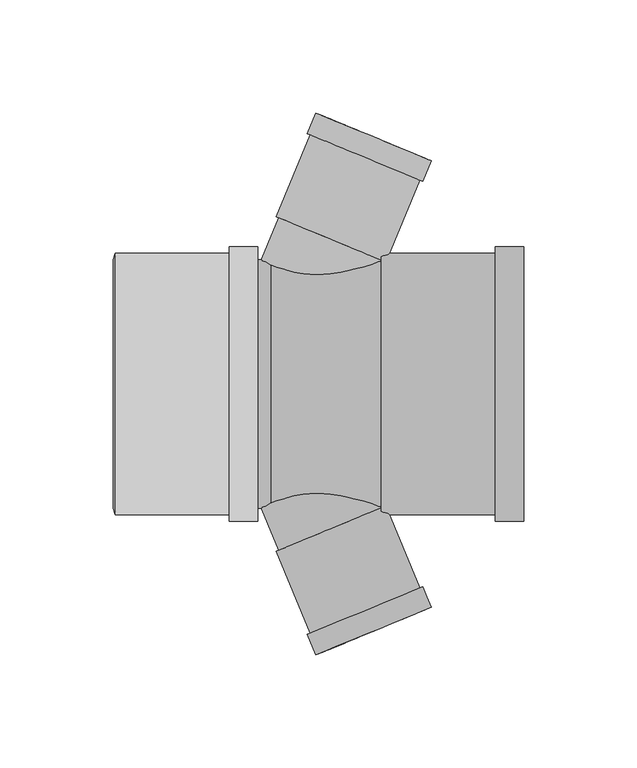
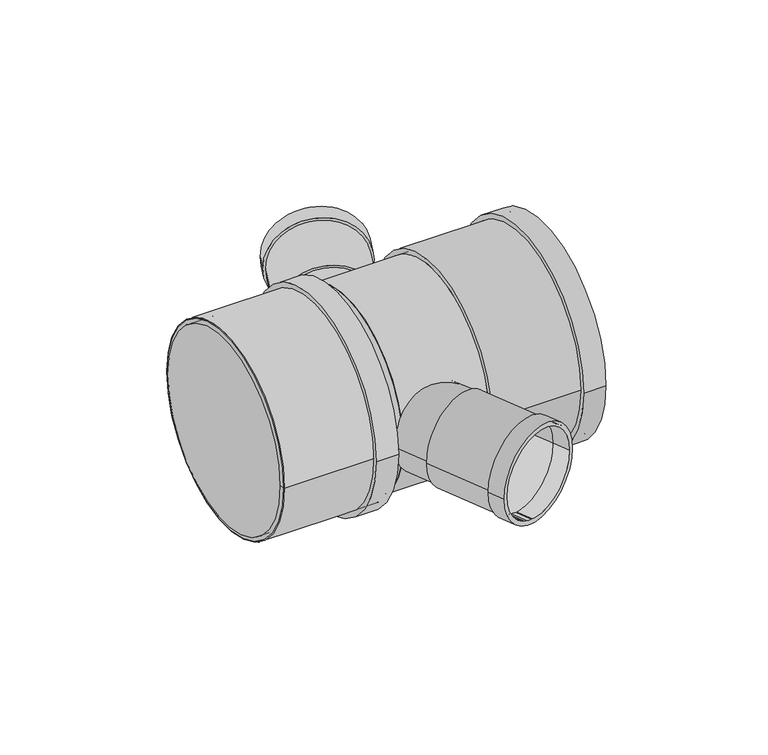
"""IFC4 building model written with IfcOpenShell, lengths in millimetres: pipe fitting geometry, Superdrain HTDA-Double Branch : Superdrain HTDA-Double Branch."""

import ifcopenshell
import ifcopenshell.guid

model = None  # the IFC model being written
_history = None  # IfcOwnerHistory: only IFC2X3 demands one
_inside = {}  # id of a spatial element -> (the spatial element, [elements in it])
_under = {}  # id of a project, library or spatial element -> (it, [spatial elements below it])
_declared = {}  # id of a project -> (the project, [libraries it declares])
_typed = {}  # id of a type object -> (the type object, [elements of that type])
_made_of = {}  # id of a material, layer set ... -> (it, [elements and type objects made of it])


def new_model(schema):
    """Start an empty IFC model of exactly this schema.

    Asked for "IFC4X3", IfcOpenShell would pick the latest addendum, in which some entities
    have other attributes; the version numbers below select the first issue.
    IFC2X3 requires an IfcOwnerHistory on every rooted entity: one is made here for all.
    """
    global model, _history
    if schema == "IFC4X3":
        model = ifcopenshell.file(schema_version=(4, 3, 0, 0))
    else:
        model = ifcopenshell.file(schema=schema)
    _inside.clear()
    _under.clear()
    _declared.clear()
    _typed.clear()
    _made_of.clear()
    _history = None
    if model.schema == "IFC2X3":
        org = make("IfcOrganization", Name="unknown")
        user = make(
            "IfcPersonAndOrganization",
            ThePerson=make("IfcPerson", FamilyName="unknown"),
            TheOrganization=org,
        )
        app = make(
            "IfcApplication",
            ApplicationDeveloper=org,
            Version="unknown",
            ApplicationFullName="unknown",
            ApplicationIdentifier="unknown",
        )
        _history = make(
            "IfcOwnerHistory",
            OwningUser=user,
            OwningApplication=app,
            ChangeAction="ADDED",
            CreationDate=0,
        )
    return model


def make(cls, **values):
    """One entity of the class cls with the attributes given. An attribute that is None is left unset."""
    return model.create_entity(
        cls, **{name: value for name, value in values.items() if value is not None}
    )


def rooted(cls, **values):
    """An entity with a GlobalId (a new one), such as an element, a storey or a relation."""
    return make(cls, GlobalId=ifcopenshell.guid.new(), OwnerHistory=_history, **values)


def si_unit(unit_type, name, prefix=None):
    """IfcSIUnit, for example si_unit("LENGTHUNIT", "METRE", prefix="MILLI")."""
    return make("IfcSIUnit", UnitType=unit_type, Prefix=prefix, Name=name)


def assignment(units):
    """IfcUnitAssignment: the units of a project."""
    return None if units is None else make("IfcUnitAssignment", Units=units)


def point(xyz):
    """IfcCartesianPoint."""
    return None if xyz is None else make("IfcCartesianPoint", Coordinates=xyz)


def direction(xyz):
    """IfcDirection."""
    return None if xyz is None else make("IfcDirection", DirectionRatios=xyz)


def frame(location, z_axis=None, x_axis=None):
    """IfcAxis2Placement3D, a coordinate frame: its origin and axes. An axis left out is left unset."""
    return make(
        "IfcAxis2Placement3D",
        Location=point(location),
        Axis=direction(z_axis),
        RefDirection=direction(x_axis),
    )


def frame_2d(location, x_axis=None):
    """IfcAxis2Placement2D, a coordinate frame in the plane: its origin and x axis."""
    return make(
        "IfcAxis2Placement2D", Location=point(location), RefDirection=direction(x_axis)
    )


def origin():
    """The frame at (0, 0, 0) with its axes left unset."""
    return frame((0.0, 0.0, 0.0))


def origin_2d():
    """The frame at (0, 0) in the plane with its x axis left unset."""
    return frame_2d((0.0, 0.0))


def place(relative_to, where):
    """IfcLocalPlacement: puts the frame where relative to a parent placement (None: the world)."""
    return make(
        "IfcLocalPlacement", PlacementRelTo=relative_to, RelativePlacement=where
    )


def context(
    kind, dimensions, precision=None, world=None, true_north=None, identifier=None
):
    """IfcGeometricRepresentationContext, for example the 3D "Model" context."""
    return make(
        "IfcGeometricRepresentationContext",
        ContextIdentifier=identifier,
        ContextType=kind,
        CoordinateSpaceDimension=dimensions,
        Precision=precision,
        WorldCoordinateSystem=world,
        TrueNorth=true_north,
    )


def project(units=None, contexts=None):
    """IfcProject with its units and contexts."""
    return rooted(
        "IfcProject",
        Name="project",
        RepresentationContexts=contexts,
        UnitsInContext=assignment(units),
    )


def spatial(cls, under=None, at=None, **own):
    """A site, building, storey or space (cls), placed at a placement, below another one or the project."""
    s = rooted(cls, ObjectPlacement=at, **own)
    if under is not None:
        _under.setdefault(under.id(), (under, []))[1].append(s)
    return s


def polyline(points):
    """IfcPolyline through the points."""
    return make("IfcPolyline", Points=[point(p) for p in points])


def circle_curve(where, radius):
    """IfcCircle in the frame where."""
    return make("IfcCircle", Position=where, Radius=radius)


def trimmed(basis, trim1, trim2, sense, master):
    """IfcTrimmedCurve: the piece of a basis curve between two trims."""
    return make(
        "IfcTrimmedCurve",
        BasisCurve=basis,
        Trim1=trim1,
        Trim2=trim2,
        SenseAgreement=sense,
        MasterRepresentation=master,
    )


def segment(curve, same_sense, transition):
    """IfcCompositeCurveSegment."""
    return make(
        "IfcCompositeCurveSegment",
        Transition=transition,
        SameSense=same_sense,
        ParentCurve=curve,
    )


def composite_curve(segments, self_intersect=None):
    """IfcCompositeCurve: segments joined end to end."""
    return make("IfcCompositeCurve", Segments=segments, SelfIntersect=self_intersect)


def outline(outer, holes=None, kind="AREA"):
    """IfcArbitraryClosedProfileDef: a profile drawn as a closed curve; with holes, ...WithVoids."""
    if holes is None:
        return make("IfcArbitraryClosedProfileDef", ProfileType=kind, OuterCurve=outer)
    return make(
        "IfcArbitraryProfileDefWithVoids",
        ProfileType=kind,
        OuterCurve=outer,
        InnerCurves=holes,
    )


def extrude(swept, where, along, depth):
    """IfcExtrudedAreaSolid: the profile swept, set in the frame where, extruded along a direction by depth."""
    return make(
        "IfcExtrudedAreaSolid",
        SweptArea=swept,
        Position=where,
        ExtrudedDirection=direction(along),
        Depth=depth,
    )


def shape(context_of_items, identifier, shape_type, items):
    """IfcShapeRepresentation: the items that make up one representation, for example the "Body"."""
    return make(
        "IfcShapeRepresentation",
        ContextOfItems=context_of_items,
        RepresentationIdentifier=identifier,
        RepresentationType=shape_type,
        Items=items,
    )


def source(mapping_origin, context_of_items, identifier, shape_type, items):
    """IfcRepresentationMap: a shape defined once, which mapped items show again and again."""
    return make(
        "IfcRepresentationMap",
        MappingOrigin=mapping_origin,
        MappedRepresentation=shape(context_of_items, identifier, shape_type, items),
    )


def transform(
    local_origin,
    x_axis=None,
    y_axis=None,
    z_axis=None,
    scale=None,
    scale2=None,
    scale3=None,
    uniform=True,
):
    """IfcCartesianTransformationOperator3D, or its non-uniform kind. x_axis, y_axis, z_axis: its Axis1, 2, 3."""
    if uniform:
        return make(
            "IfcCartesianTransformationOperator3D",
            Axis1=direction(x_axis),
            Axis2=direction(y_axis),
            LocalOrigin=point(local_origin),
            Scale=scale,
            Axis3=direction(z_axis),
        )
    return make(
        "IfcCartesianTransformationOperator3DnonUniform",
        Axis1=direction(x_axis),
        Axis2=direction(y_axis),
        LocalOrigin=point(local_origin),
        Scale=scale,
        Axis3=direction(z_axis),
        Scale2=scale2,
        Scale3=scale3,
    )


def mapped(mapping_source, mapping_target):
    """IfcMappedItem: shows the shape of a source again, moved by a transform."""
    return make(
        "IfcMappedItem", MappingSource=mapping_source, MappingTarget=mapping_target
    )


def made_of(thing, what):
    """Note that an element or type object is made of a material, layer set ...; save() writes the relation."""
    if what is not None:
        _made_of.setdefault(what.id(), (what, []))[1].append(thing)
    return thing


def element(
    cls,
    number,
    at=None,
    inside=None,
    cuts=None,
    type_object=None,
    material=None,
    context=None,
    identifier="Body",
    shape_type=None,
    held_by="IfcProductDefinitionShape",
    body=None,
    shapes=None,
    **own,
):
    """One element of the class cls, such as IfcWall. Its Tag is "e" and its number.

    at: its placement. inside: the storey or other place that contains it. cuts: it is an
    opening in that element (IfcRelVoidsElement). A single representation is given by context,
    identifier, shape_type and body (its items); several are given by shapes. held_by: the class
    of the entity that holds the representations. save() writes the other relations.
    """
    e = rooted(cls, Tag="e%d" % number, ObjectPlacement=at, **own)
    if body is not None:
        shapes = [shape(context, identifier, shape_type, body)]
    if shapes is not None:
        e.Representation = make(held_by, Representations=shapes)
    if inside is not None:
        _inside.setdefault(inside.id(), (inside, []))[1].append(e)
    if cuts is not None:
        rooted(
            "IfcRelVoidsElement", RelatingBuildingElement=cuts, RelatedOpeningElement=e
        )
    if type_object is not None:
        _typed.setdefault(type_object.id(), (type_object, []))[1].append(e)
    return made_of(e, material)


def aggregate(whole, parts):
    """IfcRelAggregates: a whole, such as a stair, and the parts it consists of."""
    return rooted("IfcRelAggregates", RelatingObject=whole, RelatedObjects=parts)


def save(model, path):
    """Write the relations noted so far, then the file.

    IfcRelAggregates (storeys below a building ...), IfcRelContainedInSpatialStructure (elements
    in a storey), IfcRelDefinesByType, IfcRelAssociatesMaterial and IfcRelDeclares: one each for
    every whole, place, type object, material and project.
    """
    for whole, parts in _under.values():
        aggregate(whole, parts)
    for where, things in _inside.values():
        rooted(
            "IfcRelContainedInSpatialStructure",
            RelatedElements=things,
            RelatingStructure=where,
        )
    for kind, things in _typed.values():
        rooted("IfcRelDefinesByType", RelatedObjects=things, RelatingType=kind)
    for what, things in _made_of.values():
        rooted("IfcRelAssociatesMaterial", RelatedObjects=things, RelatingMaterial=what)
    for by, libraries in _declared.values():
        rooted("IfcRelDeclares", RelatingContext=by, RelatedDefinitions=libraries)
    model.write(path)


def plane_surface(at):
    """IfcPlane: the flat surface through the origin of the frame at, square to its z axis."""
    return make("IfcPlane", Position=at)


def revolved_surface(curve, axis_point, axis_direction):
    """IfcSurfaceOfRevolution: the curve turned about the line through axis_point along axis_direction."""
    return make(
        "IfcSurfaceOfRevolution",
        SweptCurve=make("IfcArbitraryOpenProfileDef", ProfileType="CURVE", Curve=curve),
        AxisPosition=make("IfcAxis1Placement", Location=point(axis_point), Axis=direction(axis_direction)),
    )


def advanced_brep(points, edges, surfaces, faces):
    """IfcAdvancedBrep: a solid bounded by faces that lie on surfaces and meet in shared edges.

    An edge is (start, end): straight between two places in points (the first is 0);
    or (start, end, curve); or (start, end, curve, False) where it runs against its curve.
    A face is (place in surfaces, loops), or (place, loops, False) where it looks against
    its surface's normal. A loop lists edges by number (the first is 1), with a minus sign
    where the edge is run from its end to its start. The first loop is the outer one.
    """
    corners = [point(p) for p in points]
    vertices = [make("IfcVertexPoint", VertexGeometry=c) for c in corners]
    made = []
    for start, end, *more in edges:
        made.append(
            make(
                "IfcEdgeCurve",
                EdgeStart=vertices[start],
                EdgeEnd=vertices[end],
                EdgeGeometry=more[0] if more else make("IfcPolyline", Points=[corners[start], corners[end]]),
                SameSense=more[1] if len(more) > 1 else True,
            )
        )
    hull = []
    for where, loops, *sense in faces:
        bounds = []
        for j, loop in enumerate(loops):
            ring = [make("IfcOrientedEdge", EdgeElement=made[abs(k) - 1], Orientation=k > 0) for k in loop]
            bounds.append(
                make(
                    "IfcFaceOuterBound" if j == 0 else "IfcFaceBound",
                    Bound=make("IfcEdgeLoop", EdgeList=ring),
                    Orientation=True,
                )
            )
        hull.append(make("IfcAdvancedFace", Bounds=bounds, FaceSurface=surfaces[where], SameSense=sense[0] if sense else True))
    return make("IfcAdvancedBrep", Outer=make("IfcClosedShell", CfsFaces=hull))


def pipe_fitting_f14a9791(model_context):
    return source(origin(), model_context, "Body", "SolidModel", [
        extrude(outline(composite_curve([segment(trimmed(circle_curve(origin_2d(), 57.75), [point((57.75, 0.0))], [point((-57.75, 0.0))], False, "CARTESIAN"), True, "CONTINUOUS"), segment(trimmed(circle_curve(origin_2d(), 57.75), [point((-57.75, 0.0))], [point((57.75, 0.0))], False, "CARTESIAN"), True, "CONTINUOUS")], self_intersect=False), holes=[composite_curve([segment(trimmed(circle_curve(origin_2d(), 55.0), [point((55.0, 0.0))], [point((-55.0, 0.0))], True, "CARTESIAN"), True, "CONTINUOUS"), segment(trimmed(circle_curve(origin_2d(), 55.0), [point((-55.0, 0.0))], [point((55.0, 0.0))], True, "CARTESIAN"), True, "CONTINUOUS")], self_intersect=False)]), frame((-68.9, 0.0, 0.0), z_axis=(1.0, 0.0, 0.0), x_axis=(0.0, 1.0, 0.0)), (0.0, 0.0, 1.0), 63.0),
        extrude(outline(composite_curve([segment(trimmed(circle_curve(origin_2d(), 60.6375), [point((60.6375, 0.0))], [point((-60.6375, 0.0))], False, "CARTESIAN"), True, "CONTINUOUS"), segment(trimmed(circle_curve(origin_2d(), 60.6375), [point((-60.6375, 0.0))], [point((60.6375, 0.0))], False, "CARTESIAN"), True, "CONTINUOUS")], self_intersect=False), holes=[composite_curve([segment(trimmed(circle_curve(origin_2d(), 55.0), [point((55.0, 0.0))], [point((-55.0, 0.0))], True, "CARTESIAN"), True, "CONTINUOUS"), segment(trimmed(circle_curve(origin_2d(), 55.0), [point((-55.0, 0.0))], [point((55.0, 0.0))], True, "CARTESIAN"), True, "CONTINUOUS")], self_intersect=False)]), frame((-18.5, 0.0, 0.0), z_axis=(1.0, 0.0, 0.0), x_axis=(0.0, 1.0, 0.0)), (0.0, 0.0, 1.0), 12.6),
        advanced_brep(
        [(-69.9, 55.0, 0.0), (-69.9, -55.0, 0.0), (-68.9, 57.75, 0.0), (-68.9, -57.75, 0.0)],
        [
            (0, 1, circle_curve(frame((-69.9, 0.0, 0.0), z_axis=(-1.0, 0.0, 0.0), x_axis=(0.0, 1.0000000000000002, 0.0)), 55.0)),
            (1, 0, circle_curve(frame((-69.9, 0.0, 0.0), z_axis=(-1.0, 0.0, 0.0), x_axis=(0.0, -1.0000000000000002, 0.0)), 55.0)),
            (2, 3, circle_curve(frame((-68.9, 0.0, 0.0), z_axis=(1.0, 0.0, 0.0), x_axis=(0.0, -1.0000000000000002, 0.0)), 57.75)),
            (3, 2, circle_curve(frame((-68.9, 0.0, 0.0), z_axis=(1.0, 0.0, 0.0), x_axis=(0.0, 1.0000000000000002, 0.0)), 57.75)),
            (3, 1),
            (0, 2),
        ],
        [
            plane_surface(frame((-69.9, 0.0, 0.0), z_axis=(-1.0, 0.0, 0.0), x_axis=(0.0, 0.0, -1.0))),
            plane_surface(frame((-68.9, 0.0, 0.0), z_axis=(1.0, 0.0, 0.0), x_axis=(0.0, 0.0, -1.0))),
            revolved_surface(polyline([(-69.9, 55.0, 0.0), (-68.9, 57.75, 0.0)]), (-89.9, 0.0, 0.0), (1.0000000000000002, 0.0, 0.0)),
            revolved_surface(polyline([(-69.9, -55.0, 0.0), (-68.9, -57.75, 0.0)]), (-89.9, 0.0, 0.0), (1.0000000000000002, 0.0, 0.0)),
        ],
        [
            (0, [[1, 2]]),
            (1, [[3, 4]]),
            (2, [[-4, 5, -1, 6]]),
            (3, [[-3, -6, -2, -5]]),
        ],
    ),
        extrude(outline(composite_curve([segment(trimmed(circle_curve(origin_2d(), 27.5625), [point((0.0, -27.5625))], [point((0.0, 27.5625))], False, "CARTESIAN"), True, "CONTINUOUS"), segment(trimmed(circle_curve(origin_2d(), 27.5625), [point((0.0, 27.5625))], [point((0.0, -27.5625))], False, "CARTESIAN"), True, "CONTINUOUS")], self_intersect=False), holes=[composite_curve([segment(trimmed(circle_curve(origin_2d(), 25.0), [point((0.0, -25.0))], [point((0.0, 25.0))], True, "CARTESIAN"), True, "CONTINUOUS"), segment(trimmed(circle_curve(origin_2d(), 25.0), [point((0.0, 25.0))], [point((0.0, -25.0))], True, "CARTESIAN"), True, "CONTINUOUS")], self_intersect=False)]), frame((45.2331817, -109.2025607, 0.0), z_axis=(-0.3826834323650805, 0.9238795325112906, 0.0), x_axis=(0.0, 0.0, 1.0)), (0.0, 0.0, 1.0), 9.8),
        extrude(outline(composite_curve([segment(trimmed(circle_curve(origin_2d(), 26.25), [point((0.0, -26.25))], [point((0.0, 26.25))], False, "CARTESIAN"), True, "CONTINUOUS"), segment(trimmed(circle_curve(origin_2d(), 26.25), [point((0.0, 26.25))], [point((0.0, -26.25))], False, "CARTESIAN"), True, "CONTINUOUS")], self_intersect=False), holes=[composite_curve([segment(trimmed(circle_curve(origin_2d(), 25.0), [point((0.0, -25.0))], [point((0.0, 25.0))], True, "CARTESIAN"), True, "CONTINUOUS"), segment(trimmed(circle_curve(origin_2d(), 25.0), [point((0.0, 25.0))], [point((0.0, -25.0))], True, "CARTESIAN"), True, "CONTINUOUS")], self_intersect=False)]), frame((45.2331817, -109.2025607, 0.0), z_axis=(-0.38268343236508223, 0.92387953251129, 0.0), x_axis=(0.0, 0.0, 1.0)), (0.0, 0.0, 1.0), 49.0),
        extrude(outline(composite_curve([segment(trimmed(circle_curve(origin_2d(), 25.0), [point((0.0, -25.0))], [point((0.0, 25.0))], False, "CARTESIAN"), True, "CONTINUOUS"), segment(trimmed(circle_curve(origin_2d(), 25.0), [point((0.0, 25.0))], [point((0.0, -25.0))], False, "CARTESIAN"), True, "CONTINUOUS")], self_intersect=False)), frame((26.4816935, -63.9324636, 0.0), z_axis=(-0.3826834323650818, 0.9238795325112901, 0.0), x_axis=(0.0, 0.0, 1.0)), (0.0, 0.0, 1.0), 69.2),
        extrude(outline(composite_curve([segment(trimmed(circle_curve(origin_2d(), 27.5625), [point((0.0, 27.5625))], [point((0.0, -27.5625))], False, "CARTESIAN"), True, "CONTINUOUS"), segment(trimmed(circle_curve(origin_2d(), 27.5625), [point((0.0, -27.5625))], [point((0.0, 27.5625))], False, "CARTESIAN"), True, "CONTINUOUS")], self_intersect=False), holes=[composite_curve([segment(trimmed(circle_curve(origin_2d(), 25.0), [point((0.0, 25.0))], [point((0.0, -25.0))], True, "CARTESIAN"), True, "CONTINUOUS"), segment(trimmed(circle_curve(origin_2d(), 25.0), [point((0.0, -25.0))], [point((0.0, 25.0))], True, "CARTESIAN"), True, "CONTINUOUS")], self_intersect=False)]), frame((41.4828841, 100.1485413, 0.0), z_axis=(0.38268343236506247, 0.9238795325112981, 0.0), x_axis=(0.0, 0.0, 1.0)), (0.0, 0.0, 1.0), 9.8),
        extrude(outline(composite_curve([segment(trimmed(circle_curve(origin_2d(), 26.25), [point((0.0, 26.2499999))], [point((0.0, -26.25))], False, "CARTESIAN"), True, "CONTINUOUS"), segment(trimmed(circle_curve(origin_2d(), 26.25), [point((0.0, -26.25))], [point((0.0, 26.2499999))], False, "CARTESIAN"), True, "CONTINUOUS")], self_intersect=False), holes=[composite_curve([segment(trimmed(circle_curve(origin_2d(), 25.0), [point((0.0, 25.0))], [point((0.0, -25.0))], True, "CARTESIAN"), True, "CONTINUOUS"), segment(trimmed(circle_curve(origin_2d(), 25.0), [point((0.0, -25.0))], [point((0.0, 25.0))], True, "CARTESIAN"), True, "CONTINUOUS")], self_intersect=False)]), frame((26.4816935, 63.9324636, 0.0), z_axis=(0.3826834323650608, 0.9238795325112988, 0.0), x_axis=(0.0, 0.0, 1.0)), (0.0, 0.0, 1.0), 49.0),
        extrude(outline(composite_curve([segment(trimmed(circle_curve(origin_2d(), 25.0), [point((0.0, 25.0))], [point((0.0, -25.0))], False, "CARTESIAN"), True, "CONTINUOUS"), segment(trimmed(circle_curve(origin_2d(), 25.0), [point((0.0, -25.0))], [point((0.0, 25.0))], False, "CARTESIAN"), True, "CONTINUOUS")], self_intersect=False)), frame((0.0, 0.0, 0.0), z_axis=(0.3826834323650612, 0.9238795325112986, 0.0), x_axis=(0.0, 0.0, 1.0)), (0.0, 0.0, 1.0), 69.2),
        extrude(outline(composite_curve([segment(trimmed(circle_curve(origin_2d(), 60.6375), [point((-60.6375, 0.0))], [point((60.6375, 0.0))], False, "CARTESIAN"), True, "CONTINUOUS"), segment(trimmed(circle_curve(origin_2d(), 60.6375), [point((60.6375, 0.0))], [point((-60.6375, 0.0))], False, "CARTESIAN"), True, "CONTINUOUS")], self_intersect=False), holes=[composite_curve([segment(trimmed(circle_curve(origin_2d(), 57.75), [point((-57.75, 0.0))], [point((57.75, 0.0))], True, "CARTESIAN"), True, "CONTINUOUS"), segment(trimmed(circle_curve(origin_2d(), 57.75), [point((57.75, 0.0))], [point((-57.75, 0.0))], True, "CARTESIAN"), True, "CONTINUOUS")], self_intersect=False)]), frame((99.0, 0.0, 0.0), z_axis=(1.0, 0.0, 0.0), x_axis=(0.0, 1.0, 0.0)), (0.0, 0.0, 1.0), 12.6),
        extrude(outline(composite_curve([segment(trimmed(circle_curve(origin_2d(), 57.75), [point((-57.75, 0.0))], [point((57.75, 0.0))], False, "CARTESIAN"), True, "CONTINUOUS"), segment(trimmed(circle_curve(origin_2d(), 57.75), [point((57.75, 0.0))], [point((-57.75, 0.0))], False, "CARTESIAN"), True, "CONTINUOUS")], self_intersect=False), holes=[composite_curve([segment(trimmed(circle_curve(origin_2d(), 55.0), [point((-55.0, 0.0))], [point((55.0, 0.0))], True, "CARTESIAN"), True, "CONTINUOUS"), segment(trimmed(circle_curve(origin_2d(), 55.0), [point((55.0, 0.0))], [point((-55.0, 0.0))], True, "CARTESIAN"), True, "CONTINUOUS")], self_intersect=False)]), frame((48.6, 0.0, 0.0), z_axis=(1.0, 0.0, 0.0), x_axis=(0.0, 1.0, 0.0)), (0.0, 0.0, 1.0), 63.0),
        extrude(outline(composite_curve([segment(trimmed(circle_curve(origin_2d(), 55.0), [point((-55.0, 0.0))], [point((55.0, 0.0))], False, "CARTESIAN"), True, "CONTINUOUS"), segment(trimmed(circle_curve(origin_2d(), 55.0), [point((55.0, 0.0))], [point((-55.0, 0.0))], False, "CARTESIAN"), True, "CONTINUOUS")], self_intersect=False)), frame((0.0, 0.0, 0.0), z_axis=(1.0, 0.0, 0.0), x_axis=(0.0, 1.0, 0.0)), (0.0, 0.0, 1.0), 48.6),
        extrude(outline(composite_curve([segment(trimmed(circle_curve(origin_2d(), 55.0), [point((-55.0, 0.0))], [point((55.0, 0.0))], False, "CARTESIAN"), True, "CONTINUOUS"), segment(trimmed(circle_curve(origin_2d(), 55.0), [point((55.0, 0.0))], [point((-55.0, 0.0))], False, "CARTESIAN"), True, "CONTINUOUS")], self_intersect=False)), frame((-68.9, 0.0, 0.0), z_axis=(1.0, 0.0, 0.0), x_axis=(0.0, 1.0, 0.0)), (0.0, 0.0, 1.0), 68.9),
    ])


if __name__ == "__main__":
    model = new_model("IFC4")
    model_context = context("Model", 3, world=origin())
    ifc_project = project(units=[si_unit("LENGTHUNIT", "METRE", prefix="MILLI")], contexts=[model_context])
    site = spatial("IfcSite", under=ifc_project)
    building = spatial("IfcBuilding", under=site)
    placement = place(None, origin())
    pipe_fitting_shape = pipe_fitting_f14a9791(model_context)
    element("IfcPipeFitting", 1, ObjectType="Superdrain HTDA-Double Branch : Superdrain HTDA-Double Branch", at=placement, inside=building, context=model_context, shape_type="MappedRepresentation", body=[
        mapped(pipe_fitting_shape, transform((0.0, 0.0, 0.0), x_axis=(1.0, 0.0, 0.0), y_axis=(0.0, 1.0, 0.0), z_axis=(0.0, 0.0, 1.0))),
    ])
    save(model, "model.ifc")
